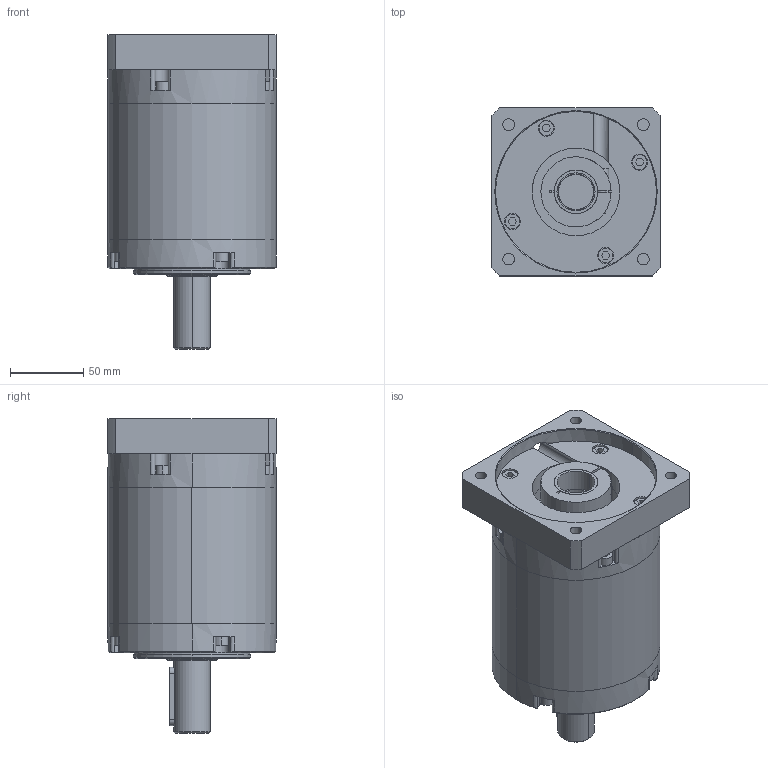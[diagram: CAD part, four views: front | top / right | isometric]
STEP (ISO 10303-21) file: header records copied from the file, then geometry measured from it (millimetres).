
FILE_DESCRIPTION((''),'2;1');
FILE_NAME('PV115FB-SINGLE-24-AD_ASM','2009-05-28T',('ata7311'),(''),'PRO/ENGINEER BY PARAMETRIC TECHNOLOGY CORPORATION, 2006300','PRO/ENGINEER BY PARAMETRIC TECHNOLOGY CORPORATION, 2006300','');
FILE_SCHEMA(('CONFIG_CONTROL_DESIGN'));
Products named in the file (13): PV115_HM_SINGLE; PV115_SHFT_FB; PV115-COVER-TN; PV115_REAR_COVER; MU115_HR_SHORT; M6X30; M6X20; PV115_SUN_CLMP; PV115_CLAMP; M6X25; HD202-0032; 5100-137; PV115FB-SINGLE-24-AD_ASM
Assembly tree (22 placements, depth 2):
  PV115FB-SINGLE-24-AD_ASM
    PV115_HM_SINGLE
    PV115_SHFT_FB
    PV115-COVER-TN
    PV115_REAR_COVER
    MU115_HR_SHORT
    M6X30  x8
    M6X20  x4
    PV115_SUN_CLMP
    PV115_CLAMP
    M6X25
    HD202-0032
    5100-137
Bounding box: 115 x 115 x 215 mm (x, y, z)
Volume: 967452.9 mm3; surface area: 226897.2 mm2
Topology: 22 solids, 22 shells, 451 faces, 1039 edges, 686 vertices
Faces by surface type: plane 225, cylinder 202, cone 20, torus 4
Entity records: 9789 total; most frequent: CARTESIAN_POINT 1859, DIRECTION 1761, ORIENTED_EDGE 1478, EDGE_CURVE 739, AXIS2_PLACEMENT_3D 709, VERTEX_POINT 486, EDGE_LOOP 383, CIRCLE 363
